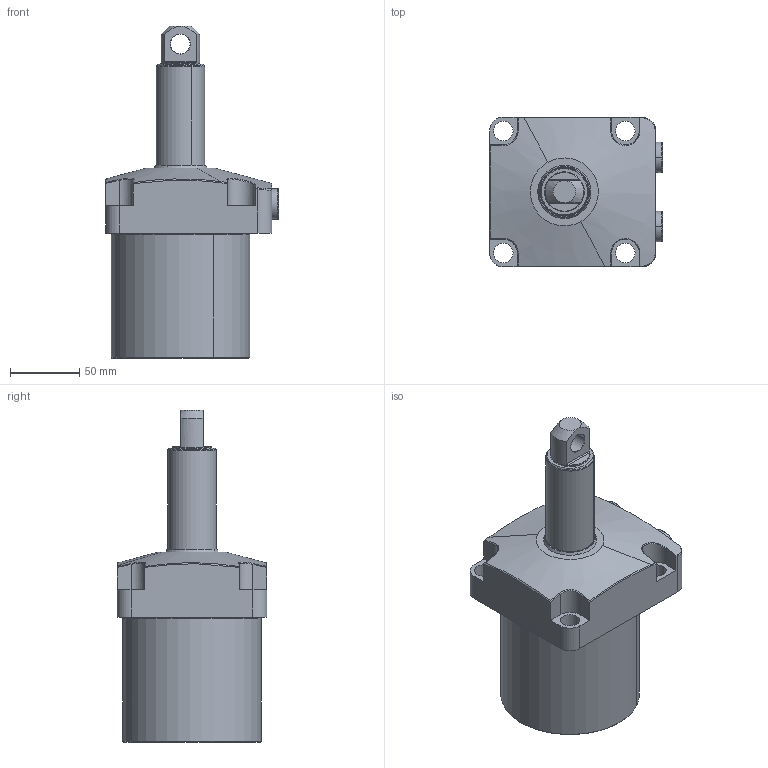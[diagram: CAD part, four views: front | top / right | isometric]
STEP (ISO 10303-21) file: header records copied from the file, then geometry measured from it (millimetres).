
FILE_DESCRIPTION(('CATIA V5 STEP Exchange'),'2;1');
FILE_NAME('C:\Users\kong\Desktop\GCD-25-70X.stp','2014-11-04T06:48:48+00:00',('none'),('none'),'CATIA Version 5 Release 17 (IN-10)','CATIA V5 STEP AP203','none');
FILE_SCHEMA(('CONFIG_CONTROL_DESIGN'));
Length unit declared in the file: millimetre
Products named in the file (1): Product2
Assembly tree (4 placements, depth 2):
  Product2
    #56
    #5374
    #6212  x2
Bounding box: 124.81 x 108 x 239.5 mm (x, y, z)
Volume: 1219547.5 mm3; surface area: 99622.9 mm2
Topology: 4 solids, 4 shells, 169 faces, 416 edges, 270 vertices
Faces by surface type: plane 55, cylinder 52, cone 30, bspline 22, torus 10
Entity records: 6872 total; most frequent: CARTESIAN_POINT 3649, ORIENTED_EDGE 740, DIRECTION 449, EDGE_CURVE 370, VERTEX_POINT 242, AXIS2_PLACEMENT_3D 223, EDGE_LOOP 170, ADVANCED_FACE 147
